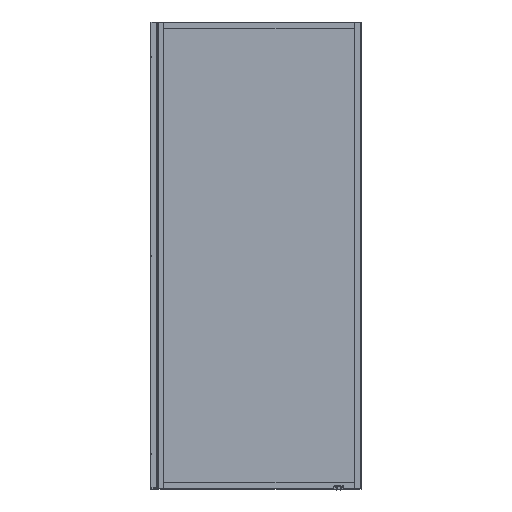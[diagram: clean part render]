
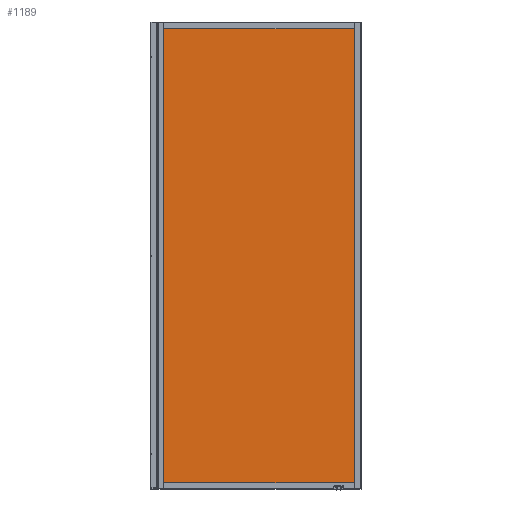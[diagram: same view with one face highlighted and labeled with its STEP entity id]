
A CAD part, front view. The second image highlights one B-rep face of the part: STEP entity #1189.
In plain terms, the highlighted planar face has unit normal (0, -1, 0) as drawn and (0, 0, 1) by its records, which use the part's own axes.
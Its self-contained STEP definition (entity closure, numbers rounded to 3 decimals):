
#1062=DIRECTION('',(1.,0.,0.));
#1063=VECTOR('',#1062,871.);
#1064=CARTESIAN_POINT('',(-435.5,-998.,8.));
#1065=LINE('',#1064,#1063);
#1070=DIRECTION('',(0.,-1.,0.));
#1071=VECTOR('',#1070,1996.);
#1072=CARTESIAN_POINT('',(-435.5,998.,8.));
#1073=LINE('',#1072,#1071);
#1078=DIRECTION('',(-1.,0.,0.));
#1079=VECTOR('',#1078,871.);
#1080=CARTESIAN_POINT('',(435.5,998.,8.));
#1081=LINE('',#1080,#1079);
#1086=DIRECTION('',(0.,1.,0.));
#1087=VECTOR('',#1086,1996.);
#1088=CARTESIAN_POINT('',(435.5,-998.,8.));
#1089=LINE('',#1088,#1087);
#1098=CARTESIAN_POINT('',(-435.5,-998.,8.));
#1099=VERTEX_POINT('',#1098);
#1100=CARTESIAN_POINT('',(435.5,-998.,8.));
#1101=VERTEX_POINT('',#1100);
#1102=CARTESIAN_POINT('',(-435.5,998.,8.));
#1103=VERTEX_POINT('',#1102);
#1104=CARTESIAN_POINT('',(435.5,998.,8.));
#1105=VERTEX_POINT('',#1104);
#1178=CARTESIAN_POINT('',(0.,0.,8.));
#1179=DIRECTION('',(0.,0.,1.));
#1180=DIRECTION('',(1.,0.,0.));
#1181=AXIS2_PLACEMENT_3D('',#1178,#1179,#1180);
#1182=PLANE('',#1181);
#1183=ORIENTED_EDGE('',*,*,#1130,.F.);
#1184=ORIENTED_EDGE('',*,*,#1145,.F.);
#1185=ORIENTED_EDGE('',*,*,#1159,.F.);
#1186=ORIENTED_EDGE('',*,*,#1172,.F.);
#1187=EDGE_LOOP('',(#1183,#1184,#1185,#1186));
#1188=FACE_OUTER_BOUND('',#1187,.F.);
#1189=ADVANCED_FACE('',(#1188),#1182,.T.);
#1130=EDGE_CURVE('',#1099,#1101,#1065,.T.);
#1145=EDGE_CURVE('',#1103,#1099,#1073,.T.);
#1159=EDGE_CURVE('',#1105,#1103,#1081,.T.);
#1172=EDGE_CURVE('',#1101,#1105,#1089,.T.);
